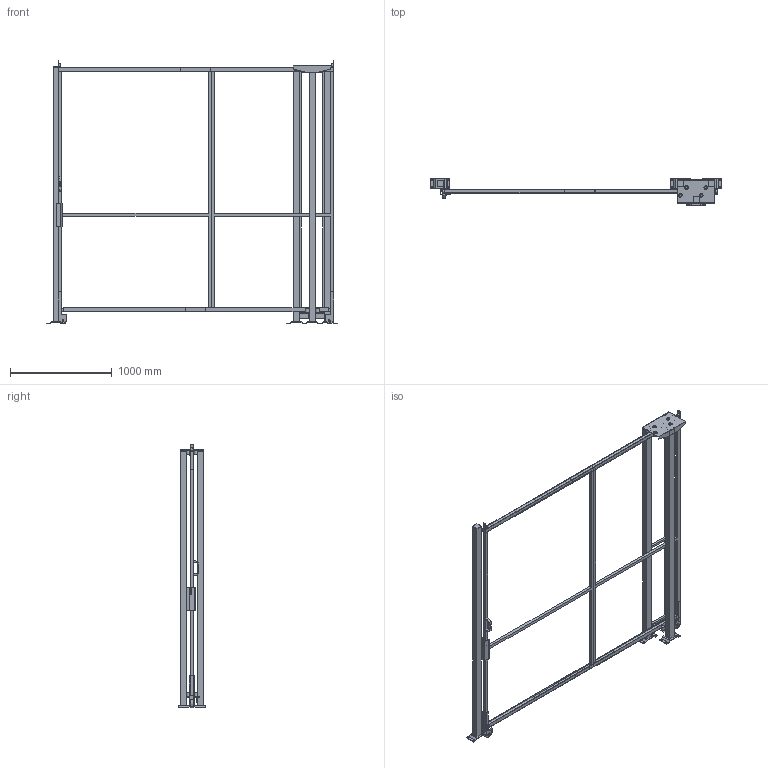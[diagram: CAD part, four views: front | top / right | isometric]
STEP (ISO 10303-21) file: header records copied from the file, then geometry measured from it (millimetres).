
FILE_DESCRIPTION(/* description */ (''),/* implementation_level */ '2;1');
FILE_NAME(/* name */ 'C:\SafeGuarding\ELABORATI\KLADKA_2025-03-20-12-06-29.stp',/* time_stamp */ '2025-03-20T12:06:32+01:00',/* author */ ('admin'),/* organization */ (''),/* preprocessor_version */ 'ST-DEVELOPER v18.1',/* originating_system */ 'AutoCAD Mechanical',/* authorisation */ '');
FILE_SCHEMA (('AUTOMOTIVE_DESIGN { 1 0 10303 214 3 1 1 }'));
Length unit declared in the file: millimetre
Products named in the file (5): Product; VFPA.REPE30.12002400; VFPA.REPE30.15002400; VFPA.REPE2002502400; P_VFMA.V360SDU.2520
Assembly tree (7 placements, depth 2):
  Product
    VFPA.REPE30.12002400
    VFPA.REPE30.15002400
    VFPA.REPE2002502400
    P_VFMA.V360SDU.2520  x4
Bounding box: 2861.97 x 264.14 x 2590.02 mm (x, y, z)
Volume: 57392054.2 mm3; surface area: 7297203.9 mm2
Topology: 48 solids, 59 shells, 501 faces, 1658 edges, 1651 vertices
Faces by surface type: plane 449, cylinder 50, sphere 2
Full cylindrical faces by diameter (mm): 9 x4, 11 x16, 13 x4, 30 x6, 36 x8, 80 x2
Entity records: 15082 total; most frequent: CARTESIAN_POINT 3272, DIRECTION 2274, ORIENTED_EDGE 2034, LINE 1140, VECTOR 1140, EDGE_CURVE 1066, VERTEX_POINT 750, AXIS2_PLACEMENT_3D 567
